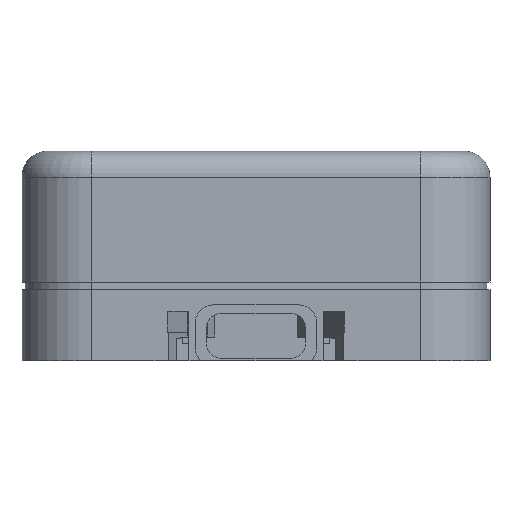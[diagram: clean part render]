
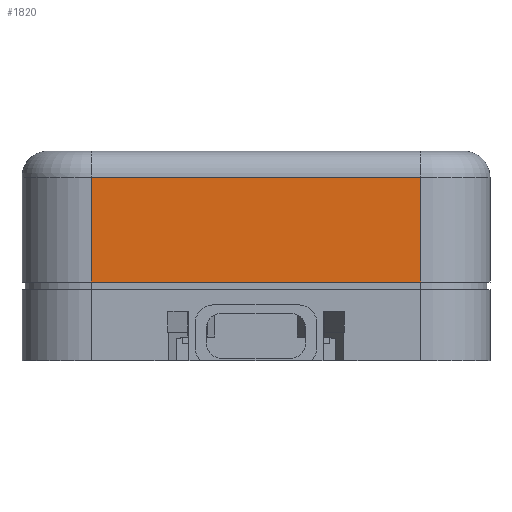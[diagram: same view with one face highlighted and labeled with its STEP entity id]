
A CAD part, front view. The second image highlights one B-rep face of the part: STEP entity #1820.
In plain terms, the highlighted planar face has unit normal (0, -1, 0).
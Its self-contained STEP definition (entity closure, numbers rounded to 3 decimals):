
#195 = CYLINDRICAL_SURFACE('',#196,3.);
#196 = AXIS2_PLACEMENT_3D('',#197,#198,#199);
#197 = CARTESIAN_POINT('',(19.,-21.,23.6));
#198 = DIRECTION('',(-1.,-0.,-0.));
#199 = DIRECTION('',(-0.,0.,1.));
#798 = VERTEX_POINT('',#799);
#799 = CARTESIAN_POINT('',(19.,-24.,23.6));
#834 = CYLINDRICAL_SURFACE('',#835,8.);
#835 = AXIS2_PLACEMENT_3D('',#836,#837,#838);
#836 = CARTESIAN_POINT('',(19.,-16.,2.4));
#837 = DIRECTION('',(0.,0.,1.));
#838 = DIRECTION('',(1.,0.,-0.));
#850 = EDGE_CURVE('',#798,#851,#853,.T.);
#851 = VERTEX_POINT('',#852);
#852 = CARTESIAN_POINT('',(-19.,-24.,23.6));
#853 = SURFACE_CURVE('',#854,(#858,#865),.PCURVE_S1.);
#854 = LINE('',#855,#856);
#855 = CARTESIAN_POINT('',(19.,-24.,23.6));
#856 = VECTOR('',#857,1.);
#857 = DIRECTION('',(-1.,-0.,-0.));
#858 = PCURVE('',#195,#859);
#859 = DEFINITIONAL_REPRESENTATION('',(#860),#864);
#860 = LINE('',#861,#862);
#861 = CARTESIAN_POINT('',(-1.571,0.));
#862 = VECTOR('',#863,1.);
#863 = DIRECTION('',(-0.,1.));
#864 = ( GEOMETRIC_REPRESENTATION_CONTEXT(2) 
PARAMETRIC_REPRESENTATION_CONTEXT() REPRESENTATION_CONTEXT('2D SPACE',''
  ) );
#865 = PCURVE('',#866,#871);
#866 = PLANE('',#867);
#867 = AXIS2_PLACEMENT_3D('',#868,#869,#870);
#868 = CARTESIAN_POINT('',(-27.,-24.,2.4));
#869 = DIRECTION('',(0.,1.,0.));
#870 = DIRECTION('',(0.,0.,1.));
#871 = DEFINITIONAL_REPRESENTATION('',(#872),#876);
#872 = LINE('',#873,#874);
#873 = CARTESIAN_POINT('',(21.2,46.));
#874 = VECTOR('',#875,1.);
#875 = DIRECTION('',(0.,-1.));
#876 = ( GEOMETRIC_REPRESENTATION_CONTEXT(2) 
PARAMETRIC_REPRESENTATION_CONTEXT() REPRESENTATION_CONTEXT('2D SPACE',''
  ) );
#978 = CYLINDRICAL_SURFACE('',#979,8.);
#979 = AXIS2_PLACEMENT_3D('',#980,#981,#982);
#980 = CARTESIAN_POINT('',(-19.,-16.,2.4));
#981 = DIRECTION('',(0.,0.,1.));
#982 = DIRECTION('',(-1.,-0.,0.));
#1593 = PLANE('',#1594);
#1594 = AXIS2_PLACEMENT_3D('',#1595,#1596,#1597);
#1595 = CARTESIAN_POINT('',(-27.5,-24.5,11.5));
#1596 = DIRECTION('',(0.,0.,1.));
#1597 = DIRECTION('',(1.,0.,0.));
#1776 = VERTEX_POINT('',#1777);
#1777 = CARTESIAN_POINT('',(19.,-24.,11.5));
#1799 = EDGE_CURVE('',#1776,#798,#1800,.T.);
#1800 = SURFACE_CURVE('',#1801,(#1805,#1812),.PCURVE_S1.);
#1801 = LINE('',#1802,#1803);
#1802 = CARTESIAN_POINT('',(19.,-24.,2.4));
#1803 = VECTOR('',#1804,1.);
#1804 = DIRECTION('',(0.,0.,1.));
#1805 = PCURVE('',#834,#1806);
#1806 = DEFINITIONAL_REPRESENTATION('',(#1807),#1811);
#1807 = LINE('',#1808,#1809);
#1808 = CARTESIAN_POINT('',(-1.571,0.));
#1809 = VECTOR('',#1810,1.);
#1810 = DIRECTION('',(-0.,1.));
#1811 = ( GEOMETRIC_REPRESENTATION_CONTEXT(2) 
PARAMETRIC_REPRESENTATION_CONTEXT() REPRESENTATION_CONTEXT('2D SPACE',''
  ) );
#1812 = PCURVE('',#866,#1813);
#1813 = DEFINITIONAL_REPRESENTATION('',(#1814),#1818);
#1814 = LINE('',#1815,#1816);
#1815 = CARTESIAN_POINT('',(0.,46.));
#1816 = VECTOR('',#1817,1.);
#1817 = DIRECTION('',(1.,0.));
#1818 = ( GEOMETRIC_REPRESENTATION_CONTEXT(2) 
PARAMETRIC_REPRESENTATION_CONTEXT() REPRESENTATION_CONTEXT('2D SPACE',''
  ) );
#1820 = ADVANCED_FACE('',(#1821),#866,.F.);
#1821 = FACE_BOUND('',#1822,.F.);
#1822 = EDGE_LOOP('',(#1823,#1844,#1865,#1866));
#1823 = ORIENTED_EDGE('',*,*,#1824,.F.);
#1824 = EDGE_CURVE('',#1825,#1776,#1827,.T.);
#1825 = VERTEX_POINT('',#1826);
#1826 = CARTESIAN_POINT('',(-19.,-24.,11.5));
#1827 = SURFACE_CURVE('',#1828,(#1832,#1838),.PCURVE_S1.);
#1828 = LINE('',#1829,#1830);
#1829 = CARTESIAN_POINT('',(-27.25,-24.,11.5));
#1830 = VECTOR('',#1831,1.);
#1831 = DIRECTION('',(1.,0.,0.));
#1832 = PCURVE('',#866,#1833);
#1833 = DEFINITIONAL_REPRESENTATION('',(#1834),#1837);
#1834 = B_SPLINE_CURVE_WITH_KNOTS('',1,(#1835,#1836),.UNSPECIFIED.,.F.,
  .F.,(2,2),(8.25,46.25),.PIECEWISE_BEZIER_KNOTS.);
#1835 = CARTESIAN_POINT('',(9.1,8.));
#1836 = CARTESIAN_POINT('',(9.1,46.));
#1837 = ( GEOMETRIC_REPRESENTATION_CONTEXT(2) 
PARAMETRIC_REPRESENTATION_CONTEXT() REPRESENTATION_CONTEXT('2D SPACE',''
  ) );
#1838 = PCURVE('',#1593,#1839);
#1839 = DEFINITIONAL_REPRESENTATION('',(#1840),#1843);
#1840 = B_SPLINE_CURVE_WITH_KNOTS('',1,(#1841,#1842),.UNSPECIFIED.,.F.,
  .F.,(2,2),(8.25,46.25),.PIECEWISE_BEZIER_KNOTS.);
#1841 = CARTESIAN_POINT('',(8.5,0.5));
#1842 = CARTESIAN_POINT('',(46.5,0.5));
#1843 = ( GEOMETRIC_REPRESENTATION_CONTEXT(2) 
PARAMETRIC_REPRESENTATION_CONTEXT() REPRESENTATION_CONTEXT('2D SPACE',''
  ) );
#1844 = ORIENTED_EDGE('',*,*,#1845,.T.);
#1845 = EDGE_CURVE('',#1825,#851,#1846,.T.);
#1846 = SURFACE_CURVE('',#1847,(#1851,#1858),.PCURVE_S1.);
#1847 = LINE('',#1848,#1849);
#1848 = CARTESIAN_POINT('',(-19.,-24.,2.4));
#1849 = VECTOR('',#1850,1.);
#1850 = DIRECTION('',(0.,0.,1.));
#1851 = PCURVE('',#866,#1852);
#1852 = DEFINITIONAL_REPRESENTATION('',(#1853),#1857);
#1853 = LINE('',#1854,#1855);
#1854 = CARTESIAN_POINT('',(0.,8.));
#1855 = VECTOR('',#1856,1.);
#1856 = DIRECTION('',(1.,0.));
#1857 = ( GEOMETRIC_REPRESENTATION_CONTEXT(2) 
PARAMETRIC_REPRESENTATION_CONTEXT() REPRESENTATION_CONTEXT('2D SPACE',''
  ) );
#1858 = PCURVE('',#978,#1859);
#1859 = DEFINITIONAL_REPRESENTATION('',(#1860),#1864);
#1860 = LINE('',#1861,#1862);
#1861 = CARTESIAN_POINT('',(1.571,0.));
#1862 = VECTOR('',#1863,1.);
#1863 = DIRECTION('',(0.,1.));
#1864 = ( GEOMETRIC_REPRESENTATION_CONTEXT(2) 
PARAMETRIC_REPRESENTATION_CONTEXT() REPRESENTATION_CONTEXT('2D SPACE',''
  ) );
#1865 = ORIENTED_EDGE('',*,*,#850,.F.);
#1866 = ORIENTED_EDGE('',*,*,#1799,.F.);
